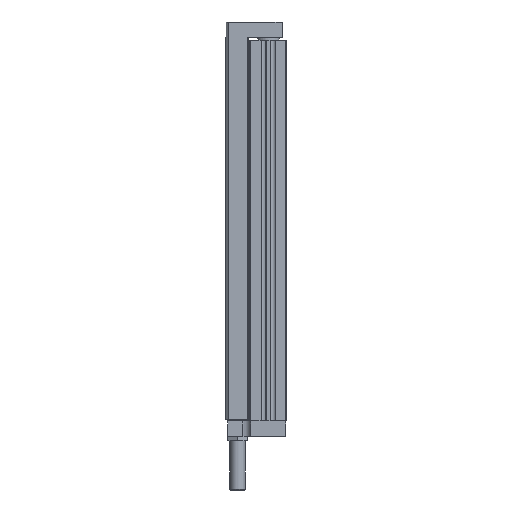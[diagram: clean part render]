
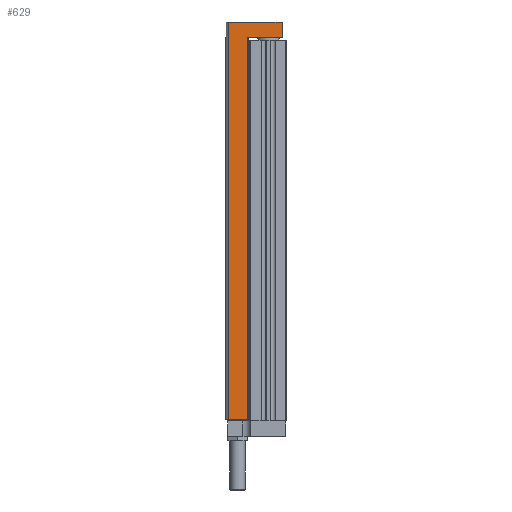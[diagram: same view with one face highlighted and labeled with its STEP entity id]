
A CAD part, left-side view. The second image highlights one B-rep face of the part: STEP entity #629.
In plain terms, the highlighted planar face has unit normal (-1, 0, 0).
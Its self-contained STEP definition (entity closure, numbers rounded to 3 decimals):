
#629 = ADVANCED_FACE( '', ( #1718 ), #1719, .T. );
#1718 = FACE_OUTER_BOUND( '', #3530, .T. );
#1719 = PLANE( '', #3531 );
#3530 = EDGE_LOOP( '', ( #5400, #5401, #5402, #5403, #5404, #5405 ) );
#3531 = AXIS2_PLACEMENT_3D( '', #5406, #5407, #5408 );
#5400 = ORIENTED_EDGE( '', *, *, #9591, .T. );
#5401 = ORIENTED_EDGE( '', *, *, #9592, .T. );
#5402 = ORIENTED_EDGE( '', *, *, #9582, .F. );
#5403 = ORIENTED_EDGE( '', *, *, #9593, .F. );
#5404 = ORIENTED_EDGE( '', *, *, #9594, .F. );
#5405 = ORIENTED_EDGE( '', *, *, #9595, .T. );
#5406 = CARTESIAN_POINT( '', ( -31., 38., -249. ) );
#5407 = DIRECTION( '', ( -1., 0., 0. ) );
#5408 = DIRECTION( '', ( 0., 0., 1. ) );
#9582 = EDGE_CURVE( '', #11238, #11229, #11240, .T. );
#9591 = EDGE_CURVE( '', #11254, #11255, #11256, .T. );
#9592 = EDGE_CURVE( '', #11255, #11229, #11257, .T. );
#9593 = EDGE_CURVE( '', #11258, #11238, #11259, .T. );
#9594 = EDGE_CURVE( '', #11260, #11258, #11261, .T. );
#9595 = EDGE_CURVE( '', #11260, #11254, #11262, .T. );
#11229 = VERTEX_POINT( '', #13665 );
#11238 = VERTEX_POINT( '', #13678 );
#11240 = LINE( '', #13681, #13682 );
#11254 = VERTEX_POINT( '', #13700 );
#11255 = VERTEX_POINT( '', #13701 );
#11256 = LINE( '', #13702, #13703 );
#11257 = LINE( '', #13704, #13705 );
#11258 = VERTEX_POINT( '', #13706 );
#11259 = LINE( '', #13707, #13708 );
#11260 = VERTEX_POINT( '', #13709 );
#11261 = LINE( '', #13710, #13711 );
#11262 = LINE( '', #13712, #13713 );
#13665 = CARTESIAN_POINT( '', ( -31., 3., 0. ) );
#13678 = CARTESIAN_POINT( '', ( -31., 3., 10. ) );
#13681 = CARTESIAN_POINT( '', ( -31., 3., 10. ) );
#13682 = VECTOR( '', #16829, 1000. );
#13700 = CARTESIAN_POINT( '', ( -31., 25.5, -249. ) );
#13701 = CARTESIAN_POINT( '', ( -31., 25.5, 0. ) );
#13702 = CARTESIAN_POINT( '', ( -31., 25.5, -249. ) );
#13703 = VECTOR( '', #16837, 1000. );
#13704 = CARTESIAN_POINT( '', ( -31., 38., 0. ) );
#13705 = VECTOR( '', #16838, 1000. );
#13706 = CARTESIAN_POINT( '', ( -31., 38., 10. ) );
#13707 = CARTESIAN_POINT( '', ( -31., 38., 10. ) );
#13708 = VECTOR( '', #16839, 1000. );
#13709 = CARTESIAN_POINT( '', ( -31., 38., -249. ) );
#13710 = CARTESIAN_POINT( '', ( -31., 38., -249. ) );
#13711 = VECTOR( '', #16840, 1000. );
#13712 = CARTESIAN_POINT( '', ( -31., 38., -249. ) );
#13713 = VECTOR( '', #16841, 1000. );
#16829 = DIRECTION( '', ( 0., 0., -1. ) );
#16837 = DIRECTION( '', ( 0., 0., 1. ) );
#16838 = DIRECTION( '', ( 0., -1., 0. ) );
#16839 = DIRECTION( '', ( 0., -1., 0. ) );
#16840 = DIRECTION( '', ( 0., 0., 1. ) );
#16841 = DIRECTION( '', ( 0., -1., 0. ) );
